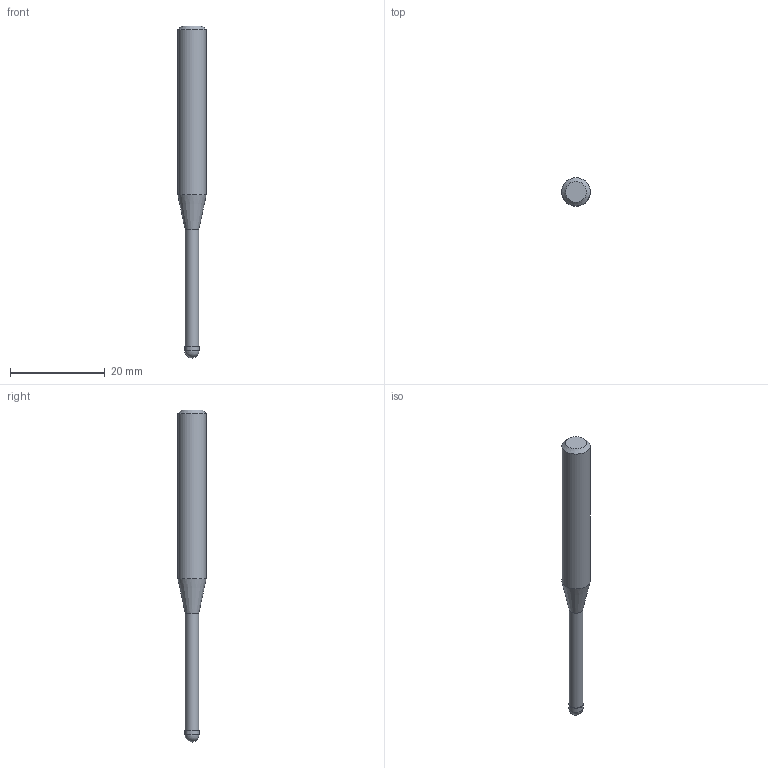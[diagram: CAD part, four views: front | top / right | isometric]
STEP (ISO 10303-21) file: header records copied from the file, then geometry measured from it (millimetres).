
FILE_DESCRIPTION((''),'2;1');
FILE_NAME('C:\Users\nsx150\AppData\Local\Temp\Mastercam 2021\ARV7HD45SN\TEMP.step','2023-06-13T16:38:34',(''),(''),'STEP Write','Mastercam 2021 ... CNC Software, Inc.','');
FILE_SCHEMA(('AUTOMOTIVE_DESIGN'));
Length unit declared in the file: millimetre
Products named in the file (1): None
Bounding box: 6 x 6 x 70 mm (x, y, z)
Volume: 1290 mm3; surface area: 1051.1 mm2
Topology: 2 solids, 2 shells, 9 faces, 14 edges, 8 vertices
Faces by surface type: plane 3, cylinder 3, cone 2, sphere 1
Full cylindrical faces by diameter (mm): 2.85 x1, 3 x1, 6 x1
Entity records: 211 total; most frequent: DIRECTION 36, CARTESIAN_POINT 25, AXIS2_PLACEMENT_3D 18, ORIENTED_EDGE 14, EDGE_LOOP 14, STYLED_ITEM 12, ADVANCED_FACE 9, FACE_BOUND 8
